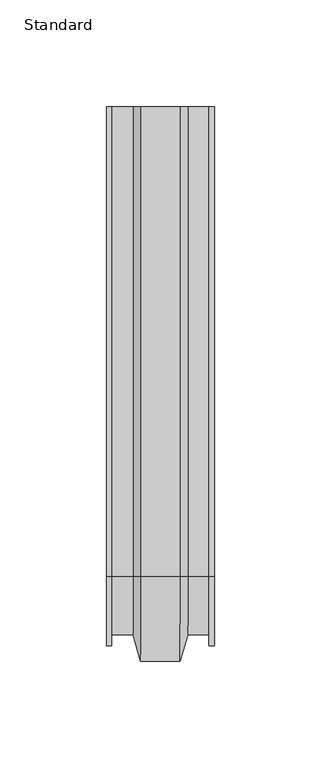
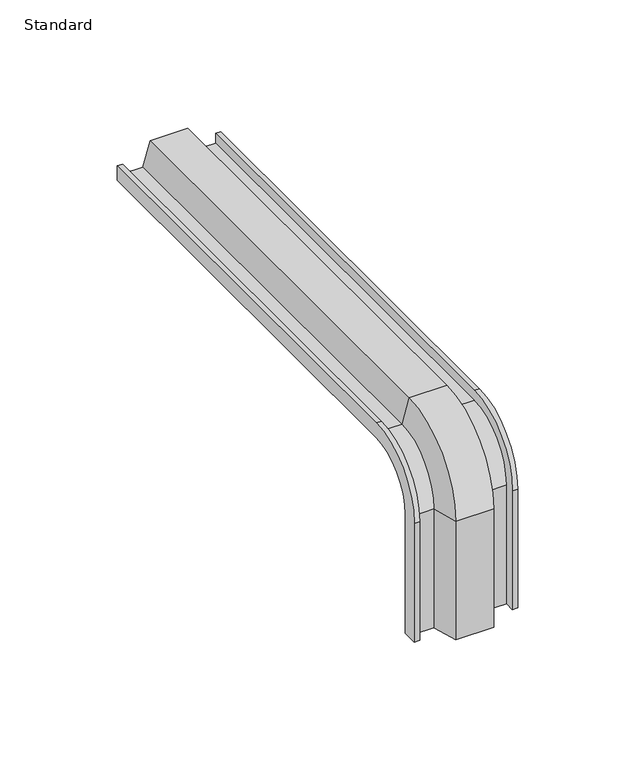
"""IFC4 building model written with IfcOpenShell, lengths in millimetres: electric appliance geometry, Bracket-L-Cablofil-Standard : Standard."""

from ifc_helpers import new_model, si_unit, frame, origin, place, context, project, spatial, polyline, circle_curve, source, transform, mapped, element, save
from ifc_brep_helpers import plane_surface, cylinder_surface, revolved_surface, advanced_brep


def standard_08e3862d(model_context):
    return source(origin(), model_context, "Body", "AdvancedBrep", [
        advanced_brep(
        [(-25.4, 130.175, 0.0), (-25.4, 130.175, 7.62), (-22.86, 130.175, 7.62), (-22.86, 130.175, 2.54), (-12.8589881, 130.175, 2.54), (-9.290155, 130.175, 14.986), (9.290155, 130.175, 14.986), (12.8589881, 130.175, 2.54), (22.86, 130.175, 2.54), (22.86, 130.175, 7.62), (25.4, 130.175, 7.62), (25.4, 130.175, 0.0), (10.9449608, 130.175, 0.0), (7.3761277, 130.175, 12.446), (-7.3761277, 130.175, 12.446), (-10.9449608, 130.175, 0.0), (-25.4, -115.189, -86.614), (-10.9449608, -115.189, -86.614), (-7.3761277, -127.635, -86.614), (7.3761277, -127.635, -86.614), (10.9449608, -115.189, -86.614), (25.4, -115.189, -86.614), (25.4, -122.809, -86.614), (22.86, -122.809, -86.614), (22.86, -117.729, -86.614), (12.8589881, -117.729, -86.614), (9.290155, -130.175, -86.614), (-9.290155, -130.175, -86.614), (-12.8589881, -117.729, -86.614), (-22.86, -117.729, -86.614), (-22.86, -122.809, -86.614), (-25.4, -122.809, -86.614), (-25.4, -90.3086499, 0.0), (-25.4, -115.189, -24.8803501), (-25.4, -122.809, -24.8803501), (-25.4, -90.3086499, 7.62), (-22.86, -90.3086499, 7.62), (-22.86, -122.809, -24.8803501), (-22.86, -117.729, -24.8803501), (-22.86, -90.3086499, 2.54), (-12.8589881, -90.3086499, 2.54), (-9.290155, -90.3086499, 14.986), (9.290155, -90.3086499, 14.986), (12.8589881, -90.3086499, 2.54), (22.86, -90.3086499, 2.54), (22.86, -117.729, -24.8803501), (22.86, -122.809, -24.8803501), (22.86, -90.3086499, 7.62), (25.4, -90.3086499, 7.62), (25.4, -122.809, -24.8803501), (25.4, -115.189, -24.8803501), (25.4, -90.3086499, 0.0), (10.9449608, -90.3086499, 0.0), (7.3761277, -90.3086499, 12.446), (-7.3761277, -90.3086499, 12.446), (-10.9449608, -90.3086499, 0.0), (-12.8589881, -117.729, -24.8803501), (-9.290155, -130.175, -24.8803501), (9.290155, -130.175, -24.8803501), (12.8589881, -117.729, -24.8803501), (10.9449608, -115.189, -24.8803501), (7.3761277, -127.635, -24.8803501), (-7.3761277, -127.635, -24.8803501), (-10.9449608, -115.189, -24.8803501)],
        [
            (0, 1),
            (1, 2),
            (2, 3),
            (3, 4),
            (4, 5),
            (5, 6),
            (6, 7),
            (7, 8),
            (8, 9),
            (9, 10),
            (10, 11),
            (11, 12),
            (12, 13),
            (13, 14),
            (14, 15),
            (15, 0),
            (16, 17),
            (17, 18),
            (18, 19),
            (19, 20),
            (20, 21),
            (21, 22),
            (22, 23),
            (23, 24),
            (24, 25),
            (25, 26),
            (26, 27),
            (27, 28),
            (28, 29),
            (29, 30),
            (30, 31),
            (31, 16),
            (0, 32),
            (32, 33, circle_curve(frame((-25.4, -90.3086499, -24.8803501), z_axis=(1.0, 0.0, 0.0), x_axis=(0.0, 0.0, 1.0)), 24.8803501)),
            (33, 16),
            (31, 34),
            (34, 35, circle_curve(frame((-25.4, -90.3086499, -24.8803501), z_axis=(-1.0, 0.0, 0.0), x_axis=(0.0, 0.0, 1.0)), 32.5003501)),
            (35, 1),
            (35, 36),
            (36, 2),
            (36, 37, circle_curve(frame((-22.86, -90.3086499, -24.8803501), z_axis=(1.0, 0.0, 0.0), x_axis=(0.0, 0.0, 1.0)), 32.5003501)),
            (37, 30),
            (29, 38),
            (38, 39, circle_curve(frame((-22.86, -90.3086499, -24.8803501), z_axis=(-1.0, 0.0, 0.0), x_axis=(0.0, 0.0, 1.0)), 27.4203501)),
            (39, 3),
            (39, 40),
            (40, 4),
            (40, 41),
            (41, 5),
            (41, 42),
            (42, 6),
            (42, 43),
            (43, 7),
            (43, 44),
            (44, 8),
            (44, 45, circle_curve(frame((22.86, -90.3086499, -24.8803501), z_axis=(1.0, 0.0, 0.0), x_axis=(0.0, 0.0, 1.0)), 27.4203501)),
            (45, 24),
            (23, 46),
            (46, 47, circle_curve(frame((22.86, -90.3086499, -24.8803501), z_axis=(-1.0, 0.0, 0.0), x_axis=(0.0, 0.0, 1.0)), 32.5003501)),
            (47, 9),
            (47, 48),
            (48, 10),
            (48, 49, circle_curve(frame((25.4, -90.3086499, -24.8803501), z_axis=(1.0, 0.0, 0.0), x_axis=(0.0, 0.0, 1.0)), 32.5003501)),
            (49, 22),
            (21, 50),
            (50, 51, circle_curve(frame((25.4, -90.3086499, -24.8803501), z_axis=(-1.0, 0.0, 0.0), x_axis=(0.0, 0.0, 1.0)), 24.8803501)),
            (51, 11),
            (51, 52),
            (52, 12),
            (52, 53),
            (53, 13),
            (53, 54),
            (54, 14),
            (54, 55),
            (55, 15),
            (55, 32),
            (34, 37),
            (56, 40, circle_curve(frame((-12.8589881, -90.3086499, -24.8803501), z_axis=(-1.0, 0.0, 0.0), x_axis=(0.0, 0.0, 1.0)), 27.4203501)),
            (38, 56),
            (57, 41, circle_curve(frame((-9.290155, -90.3086499, -24.8803501), z_axis=(-1.0, 0.0, 0.0), x_axis=(0.0, 0.0, 1.0)), 39.8663501)),
            (56, 57),
            (58, 42, circle_curve(frame((9.290155, -90.3086499, -24.8803501), z_axis=(-1.0, 0.0, 0.0), x_axis=(0.0, 0.0, 1.0)), 39.8663501)),
            (57, 58),
            (59, 43, circle_curve(frame((12.8589881, -90.3086499, -24.8803501), z_axis=(-1.0, 0.0, 0.0), x_axis=(0.0, 0.0, 1.0)), 27.4203501)),
            (58, 59),
            (59, 45),
            (46, 49),
            (60, 52, circle_curve(frame((10.9449608, -90.3086499, -24.8803501), z_axis=(-1.0, 0.0, 0.0), x_axis=(0.0, 0.0, 1.0)), 24.8803501)),
            (50, 60),
            (61, 53, circle_curve(frame((7.3761277, -90.3086499, -24.8803501), z_axis=(-1.0, 0.0, 0.0), x_axis=(0.0, 0.0, 1.0)), 37.3263501)),
            (60, 61),
            (62, 54, circle_curve(frame((-7.3761277, -90.3086499, -24.8803501), z_axis=(-1.0, 0.0, 0.0), x_axis=(0.0, 0.0, 1.0)), 37.3263501)),
            (61, 62),
            (63, 55, circle_curve(frame((-10.9449608, -90.3086499, -24.8803501), z_axis=(-1.0, 0.0, 0.0), x_axis=(0.0, 0.0, 1.0)), 24.8803501)),
            (62, 63),
            (63, 33),
            (28, 56),
            (27, 57),
            (26, 58),
            (25, 59),
            (20, 60),
            (19, 61),
            (18, 62),
            (17, 63),
        ],
        [
            plane_surface(frame((0.0, 130.175, 14.986), z_axis=(0.0, 1.0, 0.0), x_axis=(1.0, 0.0, 0.0))),
            plane_surface(frame((0.0, -130.175, -86.614), z_axis=(0.0, 0.0, -1.0), x_axis=(1.0, 0.0, 0.0))),
            plane_surface(frame((-25.4, 130.175, 0.0), z_axis=(-1.0, 0.0, 0.0), x_axis=(0.0, -1.0, 0.0))),
            plane_surface(frame((-25.4, 130.175, 7.62), z_axis=(0.0, 0.0, 1.0), x_axis=(0.0, -1.0, 0.0))),
            plane_surface(frame((-22.86, 130.175, 7.62), z_axis=(1.0, 0.0, 0.0), x_axis=(0.0, -1.0, 0.0))),
            plane_surface(frame((-22.86, 130.175, 2.54), z_axis=(0.0, 0.0, 1.0), x_axis=(0.0, -1.0, 0.0))),
            plane_surface(frame((-12.8589881, 130.175, 2.54), z_axis=(-0.9612616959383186, 0.0, 0.2756373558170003), x_axis=(0.0, -1.0, 0.0))),
            plane_surface(frame((-9.290155, 130.175, 14.986), z_axis=(0.0, 0.0, 1.0), x_axis=(0.0, -1.0, 0.0))),
            plane_surface(frame((9.290155, 130.175, 14.986), z_axis=(0.9612616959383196, 0.0, 0.27563735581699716), x_axis=(0.0, -1.0, 0.0))),
            plane_surface(frame((12.8589881, 130.175, 2.54), z_axis=(0.0, 0.0, 1.0), x_axis=(0.0, -1.0, 0.0))),
            plane_surface(frame((22.86, 130.175, 2.54), z_axis=(-1.0, 0.0, 0.0), x_axis=(0.0, -1.0, 0.0))),
            plane_surface(frame((22.86, 130.175, 7.62), z_axis=(0.0, 0.0, 1.0), x_axis=(0.0, -1.0, 0.0))),
            plane_surface(frame((25.4, 130.175, 7.62), z_axis=(1.0, 0.0, 0.0), x_axis=(0.0, -1.0, 0.0))),
            plane_surface(frame((25.4, 130.175, 0.0), z_axis=(0.0, 0.0, -1.0), x_axis=(0.0, -1.0, 0.0))),
            plane_surface(frame((10.9449608, 130.175, 0.0), z_axis=(-0.9612616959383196, 0.0, -0.2756373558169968), x_axis=(0.0, -1.0, 0.0))),
            plane_surface(frame((7.3761277, 130.175, 12.446), z_axis=(0.0, 0.0, -1.0), x_axis=(0.0, -1.0, 0.0))),
            plane_surface(frame((-7.3761277, 130.175, 12.446), z_axis=(0.9612616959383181, 0.0, -0.2756373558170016), x_axis=(0.0, -1.0, 0.0))),
            plane_surface(frame((-10.9449608, 130.175, 0.0), z_axis=(0.0, 0.0, -1.0), x_axis=(0.0, -1.0, 0.0))),
            cylinder_surface(frame((0.0, -90.3086499, -24.8803501), z_axis=(1.0, 0.0, 0.0), x_axis=(0.0, 0.0, 1.0)), 32.5003501),
            cylinder_surface(frame((0.0, -90.3086499, -24.8803501), z_axis=(1.0, 0.0, 0.0), x_axis=(0.0, 0.0, 1.0)), 27.4203501),
            revolved_surface(polyline([(-12.8589881, -90.3086499, 2.54), (-9.290155, -90.3086499, 14.986)]), (0.0, -90.3086499, -24.8803501), (1.0, 0.0, 0.0)),
            cylinder_surface(frame((0.0, -90.3086499, -24.8803501), z_axis=(1.0, 0.0, 0.0), x_axis=(0.0, 0.0, 1.0)), 39.8663501),
            revolved_surface(polyline([(9.290155, -90.3086499, 14.986), (12.8589881, -90.3086499, 2.54)]), (0.0, -90.3086499, -24.8803501), (1.0, 0.0, 0.0)),
            revolved_surface(polyline([(25.4, -90.3086499, 0.0), (10.9449608, -90.3086499, 0.0)]), (0.0, -90.3086499, -24.8803501), (1.0, 0.0, 0.0)),
            revolved_surface(polyline([(10.9449608, -90.3086499, 0.0), (7.3761277, -90.3086499, 12.446)]), (0.0, -90.3086499, -24.8803501), (1.0, 0.0, 0.0)),
            revolved_surface(polyline([(7.3761277, -90.3086499, 12.445999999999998), (-7.3761277, -90.3086499, 12.445999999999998)]), (0.0, -90.3086499, -24.8803501), (1.0, 0.0, 0.0)),
            revolved_surface(polyline([(-7.3761277, -90.3086499, 12.446), (-10.9449608, -90.3086499, 0.0)]), (0.0, -90.3086499, -24.8803501), (1.0, 0.0, 0.0)),
            revolved_surface(polyline([(-10.9449608, -90.3086499, 0.0), (-25.4, -90.3086499, 0.0)]), (0.0, -90.3086499, -24.8803501), (1.0, 0.0, 0.0)),
            plane_surface(frame((-25.4, -122.809, -24.8803501), z_axis=(0.0, -1.0, 0.0), x_axis=(0.0, 0.0, -1.0))),
            plane_surface(frame((-22.86, -117.729, -24.8803501), z_axis=(0.0, -1.0, 0.0), x_axis=(0.0, 0.0, -1.0))),
            plane_surface(frame((-12.8589881, -117.729, -24.8803501), z_axis=(-0.9612616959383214, -0.2756373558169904, 0.0), x_axis=(0.0, 0.0, -1.0))),
            plane_surface(frame((-9.290155, -130.175, -24.8803501), z_axis=(0.0, -1.0, 0.0), x_axis=(0.0, 0.0, -1.0))),
            plane_surface(frame((9.290155, -130.175, -24.8803501), z_axis=(0.9612616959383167, -0.27563735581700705, 0.0), x_axis=(0.0, 0.0, -1.0))),
            plane_surface(frame((12.8589881, -117.729, -24.8803501), z_axis=(0.0, -1.0, 0.0), x_axis=(0.0, 0.0, -1.0))),
            plane_surface(frame((22.86, -122.809, -24.8803501), z_axis=(0.0, -1.0, 0.0), x_axis=(0.0, 0.0, -1.0))),
            plane_surface(frame((25.4, -115.189, -24.8803501), z_axis=(0.0, 1.0, 0.0), x_axis=(0.0, 0.0, -1.0))),
            plane_surface(frame((10.9449608, -115.189, -24.8803501), z_axis=(-0.9612616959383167, 0.27563735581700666, 0.0), x_axis=(0.0, 0.0, -1.0))),
            plane_surface(frame((7.3761277, -127.635, -24.8803501), z_axis=(0.0, 1.0, 0.0), x_axis=(0.0, 0.0, -1.0))),
            plane_surface(frame((-7.3761277, -127.635, -24.8803501), z_axis=(0.961261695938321, 0.2756373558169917, 0.0), x_axis=(0.0, 0.0, -1.0))),
            plane_surface(frame((-10.9449608, -115.189, -24.8803501), z_axis=(0.0, 1.0, 0.0), x_axis=(0.0, 0.0, -1.0))),
        ],
        [
            (0, [[1, 2, 3, 4, 5, 6, 7, 8, 9, 10, 11, 12, 13, 14, 15, 16]]),
            (1, [[17, 18, 19, 20, 21, 22, 23, 24, 25, 26, 27, 28, 29, 30, 31, 32]]),
            (2, [[-1, 33, 34, 35, -32, 36, 37, 38]]),
            (3, [[-2, -38, 39, 40]]),
            (4, [[-3, -40, 41, 42, -30, 43, 44, 45]]),
            (5, [[-4, -45, 46, 47]]),
            (6, [[-5, -47, 48, 49]]),
            (7, [[-6, -49, 50, 51]]),
            (8, [[-7, -51, 52, 53]]),
            (9, [[-8, -53, 54, 55]]),
            (10, [[-9, -55, 56, 57, -24, 58, 59, 60]]),
            (11, [[-10, -60, 61, 62]]),
            (12, [[-11, -62, 63, 64, -22, 65, 66, 67]]),
            (13, [[-12, -67, 68, 69]]),
            (14, [[-13, -69, 70, 71]]),
            (15, [[-14, -71, 72, 73]]),
            (16, [[-15, -73, 74, 75]]),
            (17, [[-16, -75, 76, -33]]),
            (18, [[-41, -39, -37, 77]]),
            (19, [[78, -46, -44, 79]]),
            (20, [[80, -48, -78, 81]]),
            (21, [[82, -50, -80, 83]]),
            (22, [[84, -52, -82, 85]]),
            (19, [[-56, -54, -84, 86]]),
            (18, [[-63, -61, -59, 87]]),
            (23, [[88, -68, -66, 89]]),
            (24, [[90, -70, -88, 91]]),
            (25, [[92, -72, -90, 93]]),
            (26, [[94, -74, -92, 95]]),
            (27, [[-34, -76, -94, 96]]),
            (28, [[-77, -36, -31, -42]]),
            (29, [[-79, -43, -29, 97]]),
            (30, [[-81, -97, -28, 98]]),
            (31, [[-83, -98, -27, 99]]),
            (32, [[-85, -99, -26, 100]]),
            (33, [[-86, -100, -25, -57]]),
            (34, [[-87, -58, -23, -64]]),
            (35, [[-89, -65, -21, 101]]),
            (36, [[-91, -101, -20, 102]]),
            (37, [[-93, -102, -19, 103]]),
            (38, [[-95, -103, -18, 104]]),
            (39, [[-96, -104, -17, -35]]),
        ],
    ),
    ])


if __name__ == "__main__":
    model = new_model("IFC4")
    model_context = context("Model", 3, world=origin())
    ifc_project = project(units=[si_unit("LENGTHUNIT", "METRE", prefix="MILLI")], contexts=[model_context])
    site = spatial("IfcSite", under=ifc_project)
    building = spatial("IfcBuilding", under=site)
    placement = place(None, origin())
    standard_shape = standard_08e3862d(model_context)
    element("IfcElectricAppliance", 1, ObjectType="Bracket-L-Cablofil-Standard : Standard", at=placement, inside=building, context=model_context, shape_type="MappedRepresentation", body=[
        mapped(standard_shape, transform((0.0, 0.0, 0.0), x_axis=(1.0, 0.0, 0.0), y_axis=(0.0, 1.0, 0.0), z_axis=(0.0, 0.0, 1.0))),
    ])
    save(model, "model.ifc")
